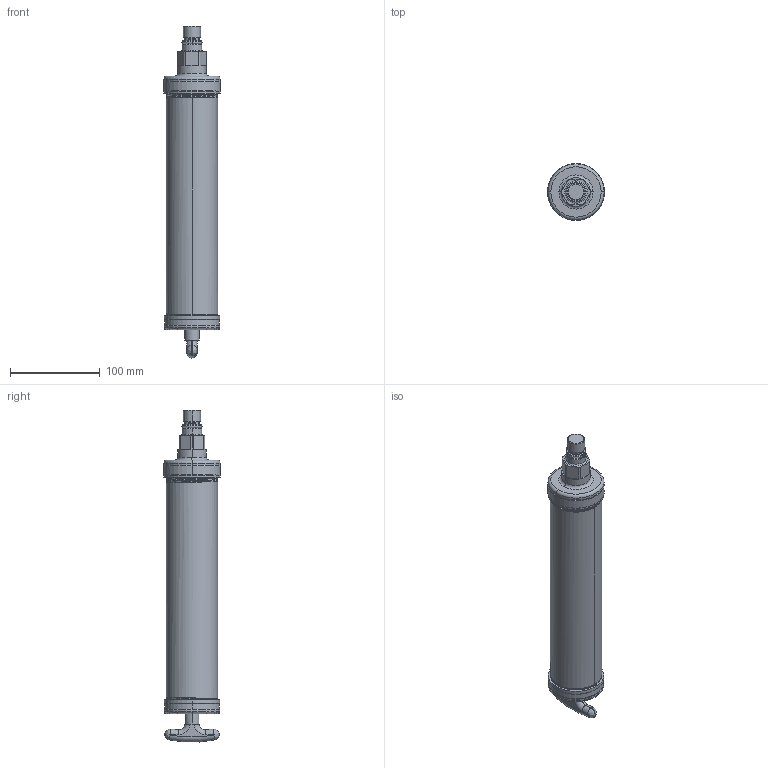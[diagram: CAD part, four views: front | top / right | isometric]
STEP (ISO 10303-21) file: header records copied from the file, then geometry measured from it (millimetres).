
FILE_DESCRIPTION((''),'2;1');
FILE_NAME('571162-EN-D_PRT','2022-06-21T15:05:37',('qufmd1'),(''),'CREO PARAMETRIC BY PTC INC, 2021072','CREO PARAMETRIC BY PTC INC, 2021072','');
FILE_SCHEMA(('CONFIG_CONTROL_DESIGN'));
Length unit declared in the file: inch
Products named in the file (1): 571162-EN-D_PRT
Bounding box: 63.5 x 63.5 x 369.92 mm (x, y, z)
Surface area: 76198.7 mm2 (no closed solid volume)
Topology: 0 solids, 10 shells, 144 faces, 371 edges, 235 vertices
Faces by surface type: cylinder 70, plane 24, torus 22, cone 18, bspline 10
Entity records: 7575 total; most frequent: CARTESIAN_POINT 4246, DIRECTION 680, ORIENTED_EDGE 646, EDGE_CURVE 371, AXIS2_PLACEMENT_3D 278, VERTEX_POINT 235, EDGE_LOOP 144, FACE_OUTER_BOUND 144
